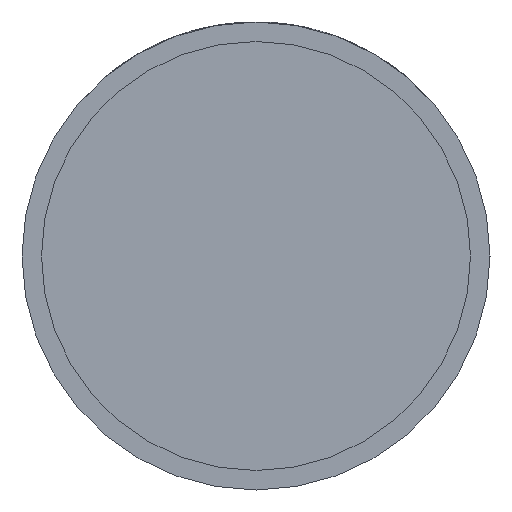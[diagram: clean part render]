
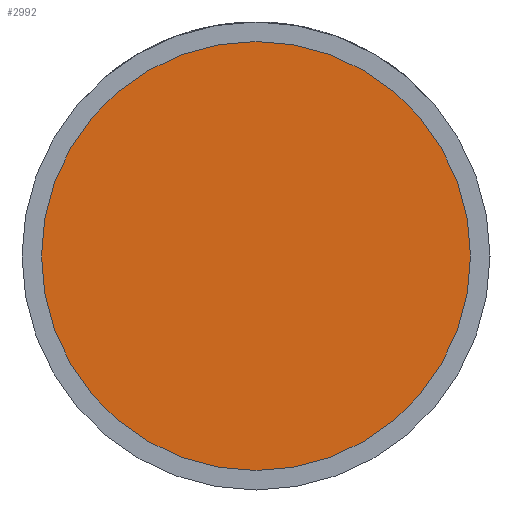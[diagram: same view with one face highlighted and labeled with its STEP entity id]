
A CAD part, front view. The second image highlights one B-rep face of the part: STEP entity #2992.
In plain terms, the highlighted planar face has unit normal (0, -1, 0).
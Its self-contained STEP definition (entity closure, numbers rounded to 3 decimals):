
#138 = DIRECTION ( 'NONE',  ( 1., 0., 0. ) ) ;
#156 = DIRECTION ( 'NONE',  ( 0., -1., 0. ) ) ;
#253 = CIRCLE ( 'NONE', #3373, 22. ) ;
#334 = DIRECTION ( 'NONE',  ( 1., 0., 0. ) ) ;
#439 = EDGE_CURVE ( 'NONE', #2549, #3080, #795, .T. ) ;
#795 = CIRCLE ( 'NONE', #3913, 22. ) ;
#870 = AXIS2_PLACEMENT_3D ( 'NONE', #1050, #156, #138 ) ;
#1050 = CARTESIAN_POINT ( 'NONE',  ( 22., -17.5, 0. ) ) ;
#1906 = ORIENTED_EDGE ( 'NONE', *, *, #4016, .T. ) ;
#2053 = DIRECTION ( 'NONE',  ( 0., -1., 0. ) ) ;
#2394 = CARTESIAN_POINT ( 'NONE',  ( 0., -17.5, 0. ) ) ;
#2441 = DIRECTION ( 'NONE',  ( 0., -1., 0. ) ) ;
#2464 = FACE_OUTER_BOUND ( 'NONE', #3589, .T. ) ;
#2503 = CARTESIAN_POINT ( 'NONE',  ( 22., -17.5, 0. ) ) ;
#2549 = VERTEX_POINT ( 'NONE', #4250 ) ;
#2992 = ADVANCED_FACE ( 'NONE', ( #2464 ), #3758, .T. ) ;
#3080 = VERTEX_POINT ( 'NONE', #2503 ) ;
#3373 = AXIS2_PLACEMENT_3D ( 'NONE', #2394, #2441, #3688 ) ;
#3533 = ORIENTED_EDGE ( 'NONE', *, *, #439, .T. ) ;
#3589 = EDGE_LOOP ( 'NONE', ( #1906, #3533 ) ) ;
#3688 = DIRECTION ( 'NONE',  ( 1., 0., 0. ) ) ;
#3689 = CARTESIAN_POINT ( 'NONE',  ( 0., -17.5, 0. ) ) ;
#3758 = PLANE ( 'NONE',  #870 ) ;
#3913 = AXIS2_PLACEMENT_3D ( 'NONE', #3689, #2053, #334 ) ;
#4016 = EDGE_CURVE ( 'NONE', #3080, #2549, #253, .T. ) ;
#4250 = CARTESIAN_POINT ( 'NONE',  ( -22., -17.5, 0. ) ) ;
